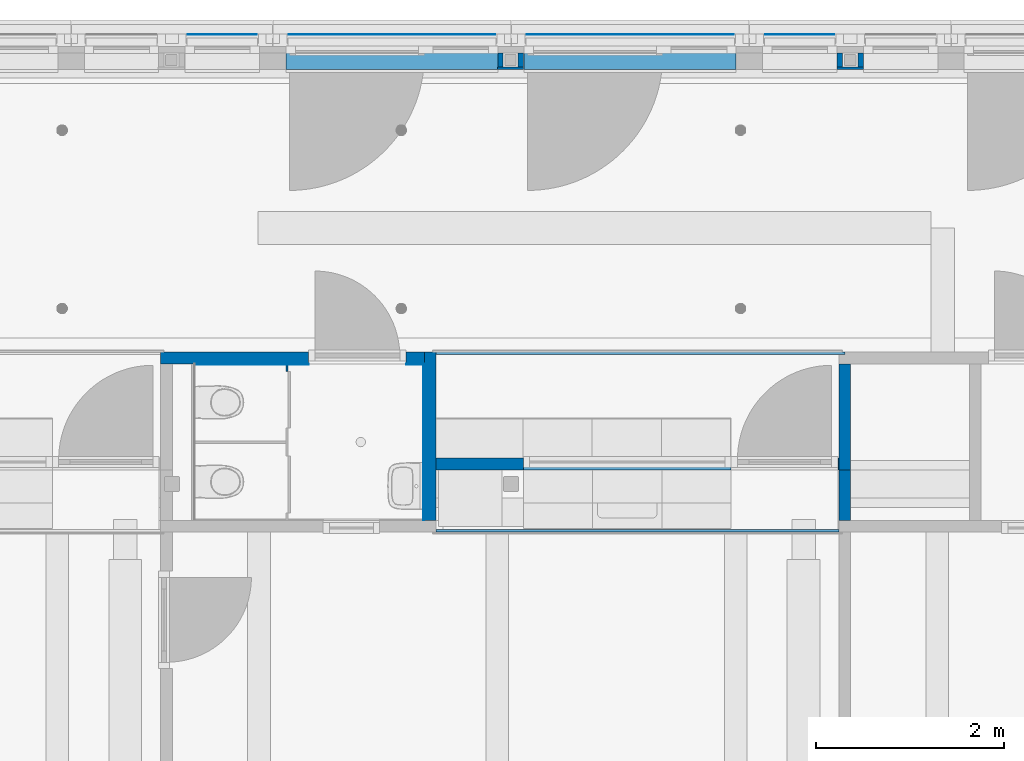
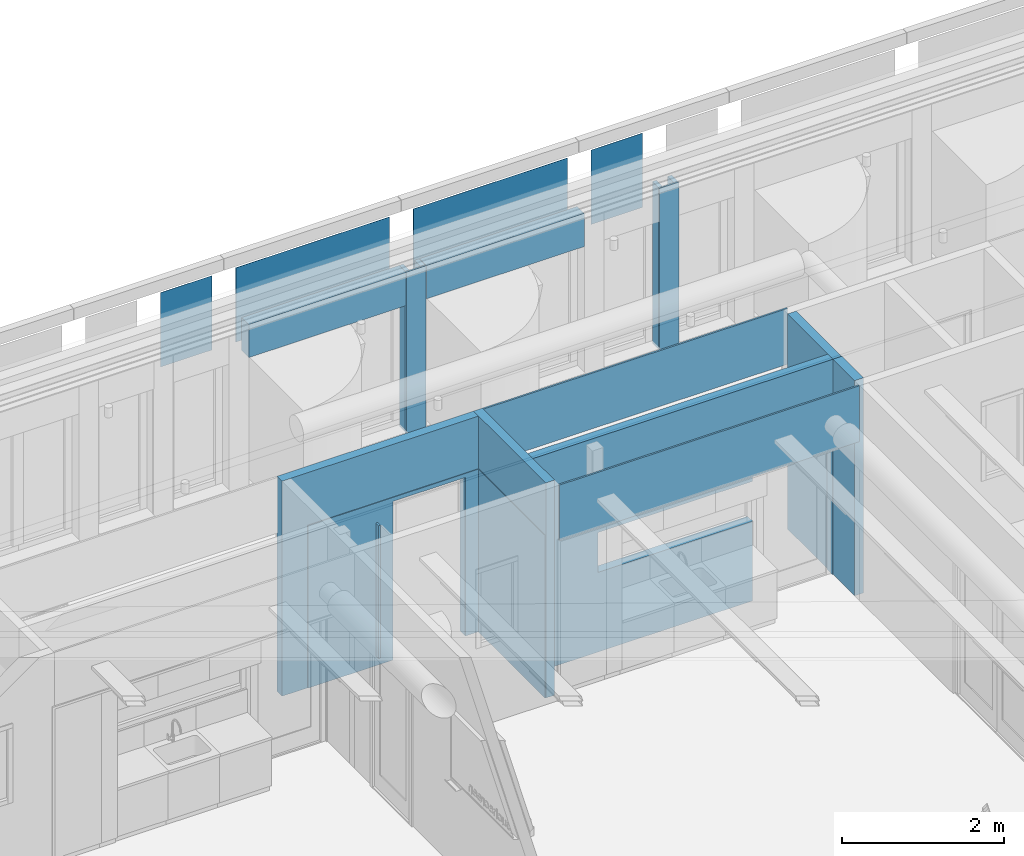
# One storey, part 47 of 128: 22 walls, 5 openings.
"""IFC2X3 building model written with IfcOpenShell, lengths in millimetres."""

from ifc_helpers import new_model, entity, si_unit, converted_unit, derived_unit, direction, frame, frame_2d, origin, origin_2d_with_axis, place, context, subcontext, project, spatial, polyline, rectangle, extrude, clip, bounded_halfspace, material, layer, layer_set, layer_usage, type_object, element, save


model = new_model("IFC2X3")

# Units and contexts
model_context = context("Model", 3, precision=0.01, world=origin(), true_north=direction((6.123031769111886e-17, 1.0)))
body_context = subcontext(model_context, "Body", "Model", "MODEL_VIEW")
ifc_project = project(units=[si_unit("LENGTHUNIT", "METRE", prefix="MILLI"), si_unit("AREAUNIT", "SQUARE_METRE"), si_unit("VOLUMEUNIT", "CUBIC_METRE"), converted_unit("PLANEANGLEUNIT", "DEGREE", entity("IfcRatioMeasure", 0.017453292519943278), si_unit("PLANEANGLEUNIT", "RADIAN"), dimensions=[0, 0, 0, 0, 0, 0, 0]), si_unit("MASSUNIT", "GRAM", prefix="KILO"), derived_unit("MASSDENSITYUNIT", [(si_unit("MASSUNIT", "GRAM", prefix="KILO"), 1), (si_unit("LENGTHUNIT", "METRE"), -3)]), derived_unit("IONCONCENTRATIONUNIT", [(si_unit("MASSUNIT", "GRAM", prefix="KILO"), 1), (si_unit("LENGTHUNIT", "METRE"), -3)]), derived_unit("MOMENTOFINERTIAUNIT", [(si_unit("LENGTHUNIT", "METRE"), 4)]), si_unit("TIMEUNIT", "SECOND"), si_unit("FREQUENCYUNIT", "HERTZ"), si_unit("THERMODYNAMICTEMPERATUREUNIT", "DEGREE_CELSIUS"), derived_unit("THERMALTRANSMITTANCEUNIT", [(si_unit("MASSUNIT", "GRAM", prefix="KILO"), 1), (si_unit("THERMODYNAMICTEMPERATUREUNIT", "KELVIN"), -1), (si_unit("TIMEUNIT", "SECOND"), -3)]), derived_unit("THERMALCONDUCTANCEUNIT", [(si_unit("MASSUNIT", "GRAM", prefix="KILO"), 1), (si_unit("THERMODYNAMICTEMPERATUREUNIT", "KELVIN"), -1), (si_unit("TIMEUNIT", "SECOND"), -3), (si_unit("LENGTHUNIT", "METRE"), 1)]), derived_unit("VOLUMETRICFLOWRATEUNIT", [(si_unit("LENGTHUNIT", "METRE"), 3), (si_unit("TIMEUNIT", "SECOND"), -1)]), derived_unit("MASSFLOWRATEUNIT", [(si_unit("MASSUNIT", "GRAM", prefix="KILO"), 1), (si_unit("TIMEUNIT", "SECOND"), -1)]), derived_unit("ROTATIONALFREQUENCYUNIT", [(si_unit("TIMEUNIT", "SECOND"), -1)]), si_unit("ELECTRICCURRENTUNIT", "AMPERE"), si_unit("ELECTRICVOLTAGEUNIT", "VOLT"), si_unit("POWERUNIT", "WATT"), si_unit("FORCEUNIT", "NEWTON", prefix="KILO"), si_unit("ILLUMINANCEUNIT", "LUX"), si_unit("LUMINOUSFLUXUNIT", "LUMEN"), si_unit("LUMINOUSINTENSITYUNIT", "CANDELA"), derived_unit("USERDEFINED", [(si_unit("MASSUNIT", "GRAM", prefix="KILO"), -1), (si_unit("LENGTHUNIT", "METRE"), -2), (si_unit("TIMEUNIT", "SECOND"), 3), (si_unit("LUMINOUSFLUXUNIT", "LUMEN"), 1)]), derived_unit("USERDEFINED", [(si_unit("MASSUNIT", "GRAM", prefix="KILO"), 1), (si_unit("TIMEUNIT", "SECOND"), -3), (si_unit("LENGTHUNIT", "METRE"), 3), (si_unit("ELECTRICCURRENTUNIT", "AMPERE"), -2)]), derived_unit("SOUNDPOWERUNIT", [(si_unit("MASSUNIT", "GRAM", prefix="KILO"), 1), (si_unit("TIMEUNIT", "SECOND"), -3), (si_unit("LENGTHUNIT", "METRE"), 2)]), derived_unit("SOUNDPRESSUREUNIT", [(si_unit("MASSUNIT", "GRAM", prefix="KILO"), 1), (si_unit("LENGTHUNIT", "METRE"), -1), (si_unit("TIMEUNIT", "SECOND"), -2)]), derived_unit("LINEARVELOCITYUNIT", [(si_unit("LENGTHUNIT", "METRE"), 1), (si_unit("TIMEUNIT", "SECOND"), -1)]), si_unit("PRESSUREUNIT", "PASCAL"), derived_unit("USERDEFINED", [(si_unit("MASSUNIT", "GRAM", prefix="KILO"), 1), (si_unit("LENGTHUNIT", "METRE"), -2), (si_unit("TIMEUNIT", "SECOND"), -2)]), derived_unit("LINEARFORCEUNIT", [(si_unit("MASSUNIT", "GRAM", prefix="KILO"), 1), (si_unit("TIMEUNIT", "SECOND"), -2)]), derived_unit("PLANARFORCEUNIT", [(si_unit("MASSUNIT", "GRAM", prefix="KILO"), 1), (si_unit("LENGTHUNIT", "METRE"), -1), (si_unit("TIMEUNIT", "SECOND"), -2)]), derived_unit("SPECIFICHEATCAPACITYUNIT", [(si_unit("THERMODYNAMICTEMPERATUREUNIT", "KELVIN"), -1), (si_unit("LENGTHUNIT", "METRE"), 2), (si_unit("TIMEUNIT", "SECOND"), -2)]), derived_unit("HEATINGVALUEUNIT", [(si_unit("LENGTHUNIT", "METRE"), 2), (si_unit("TIMEUNIT", "SECOND"), -2)]), derived_unit("VAPORPERMEABILITYUNIT", [(si_unit("LENGTHUNIT", "METRE"), -1), (si_unit("TIMEUNIT", "SECOND"), 1)]), derived_unit("DYNAMICVISCOSITYUNIT", [(si_unit("MASSUNIT", "GRAM", prefix="KILO"), 1), (si_unit("TIMEUNIT", "SECOND"), -1), (si_unit("LENGTHUNIT", "METRE"), -1)]), derived_unit("THERMALEXPANSIONCOEFFICIENTUNIT", [(si_unit("THERMODYNAMICTEMPERATUREUNIT", "KELVIN"), -1)]), derived_unit("MODULUSOFELASTICITYUNIT", [(si_unit("MASSUNIT", "GRAM", prefix="KILO"), 1), (si_unit("LENGTHUNIT", "METRE"), -1), (si_unit("TIMEUNIT", "SECOND"), -2)]), derived_unit("ISOTHERMALMOISTURECAPACITYUNIT", [(si_unit("LENGTHUNIT", "METRE"), 3), (si_unit("MASSUNIT", "GRAM", prefix="KILO"), -1)]), derived_unit("MOISTUREDIFFUSIVITYUNIT", [(si_unit("TIMEUNIT", "SECOND"), -1), (si_unit("LENGTHUNIT", "METRE"), 2)])], contexts=[model_context])

# Site, building, storey
site_placement = place(None, frame((0.0, 300.0, 0.0)))
site = spatial("IfcSite", under=ifc_project, at=site_placement, Name="<Kadastrale nummers>", CompositionType="ELEMENT")
building_placement = place(site_placement, origin())
building = spatial("IfcBuilding", under=site, at=building_placement, CompositionType="ELEMENT")
storey_placement = place(building_placement, frame((0.0, 0.0, 3560.0000331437)))
storey = spatial("IfcBuildingStorey", under=building, at=storey_placement, Name="01 eerste verdieping", CompositionType="ELEMENT", Elevation=3560.0000331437)

# Wall, opening
ifc_material_1 = material(Name="ISR_Gips")
ifc_layer_1 = layer(ifc_material_1, 1.0)
ifc_material_2 = material(Name="ISR_Binnenwand")
ifc_layer_2 = layer(ifc_material_2, 123.0)
ifc_layer_3 = layer(ifc_material_1, 1.0)
ifc_layer_set_1 = layer_set([ifc_layer_1, ifc_layer_2, ifc_layer_3], Name="Basic Wall:22_DAT_binnenwand_125")
ifc_layer_usage_1 = layer_usage(ifc_layer_set_1, "AXIS2", "POSITIVE", -62.50000000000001)
wall_type_1 = type_object("IfcWallType", Name="Basic Wall:22_DAT_binnenwand_125", PredefinedType="STANDARD", material=ifc_layer_set_1)
wall_1_placement = place(storey_placement, frame((10080.0, 46637.49999999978, 90.00000187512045)))
wall_1 = element("IfcWallStandardCase", 1, at=wall_1_placement, inside=storey, type_object=wall_type_1, material=ifc_layer_usage_1, Name="Basic Wall:22_DAT_binnenwand_125", ObjectType="Basic Wall:22_DAT_binnenwand_125", context=body_context, shape_type="SweptSolid", body=[
    extrude(rectangle(XDim=2799.9999999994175, YDim=125.00000000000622, at=frame_2d((1399.9999999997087, -3.197442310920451e-14), x_axis=(-1.0, 0.0))), origin(), (0.0, 0.0, 1.0), 3240.0000290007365),
])
opening_1_placement = place(wall_1_placement, origin())
element("IfcOpeningElement", 2, at=opening_1_placement, cuts=wall_1, Name="Basic Wall:22_DAT_binnenwand_125", ObjectType="Opening", context=body_context, shape_type="SweptSolid", body=[
    extrude(rectangle(XDim=2390.0000000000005, YDim=1034.000000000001, at=frame_2d((-1.0800249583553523e-12, 0.0), x_axis=(0.0, 1.0))), frame((2089.0013767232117, -214.89999999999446, 1195.0), z_axis=(0.0, 1.0, 0.0), x_axis=(-1.0, 0.0, 0.0)), (0.0, 0.0, 1.0), 429.79999999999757),
])

# Walls
ifc_layer_4 = layer(ifc_material_2, 113.0)
ifc_material_3 = material(Name="ISR_HPL Kleur hout")
ifc_layer_5 = layer(ifc_material_3, 12.0)
ifc_layer_set_2 = layer_set([ifc_layer_4, ifc_layer_5], Name="Basic Wall:22_DAT_binnenwand_125 HPL")
ifc_layer_usage_2 = layer_usage(ifc_layer_set_2, "AXIS2", "POSITIVE", -62.49999999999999)
wall_type_2 = type_object("IfcWallType", Name="Basic Wall:22_DAT_binnenwand_125 HPL", PredefinedType="STANDARD", material=ifc_layer_set_2)
wall_2_placement = place(storey_placement, frame((17342.50000000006, 44915.0, 90.00000187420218), z_axis=(0.0, 0.0, 1.0), x_axis=(0.0, 1.0, 0.0)))
element("IfcWallStandardCase", 3, at=wall_2_placement, inside=storey, type_object=wall_type_2, material=ifc_layer_usage_2, Name="Basic Wall:22_DAT_binnenwand_125 HPL", ObjectType="Basic Wall:22_DAT_binnenwand_125 HPL", context=body_context, shape_type="SweptSolid", body=[
    extrude(rectangle(XDim=534.9999999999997, YDim=125.0000000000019, at=frame_2d((267.49999999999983, -4.583000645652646e-13), x_axis=(-1.0, 0.0))), origin(), (0.0, 0.0, 1.0), 3240.0000290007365),
])
ifc_layer_usage_3 = layer_usage(ifc_layer_set_2, "AXIS2", "NEGATIVE", 62.49999999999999)
wall_3_placement = place(storey_placement, frame((12942.500000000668, 44915.0, 90.00000187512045), z_axis=(0.0, 0.0, 1.0), x_axis=(0.0, 1.0, 0.0)))
element("IfcWallStandardCase", 4, at=wall_3_placement, inside=storey, type_object=wall_type_2, material=ifc_layer_usage_3, Name="Basic Wall:22_DAT_binnenwand_125 HPL", ObjectType="Basic Wall:22_DAT_binnenwand_125 HPL", context=body_context, shape_type="SweptSolid", body=[
    extrude(rectangle(XDim=1784.9999999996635, YDim=125.0000000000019, at=frame_2d((892.4999999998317, -5.293543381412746e-13), x_axis=(-1.0, 0.0))), origin(), (0.0, 0.0, 1.0), 3240.0000290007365),
])
wall_4_placement = place(storey_placement, frame((17342.500000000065, 45450.0, 90.00000187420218), z_axis=(0.0, 0.0, 1.0), x_axis=(0.0, 1.0, 0.0)))
element("IfcWallStandardCase", 5, at=wall_4_placement, inside=storey, type_object=wall_type_2, material=ifc_layer_usage_2, Name="Basic Wall:22_DAT_binnenwand_125 HPL", ObjectType="Basic Wall:22_DAT_binnenwand_125 HPL", context=body_context, shape_type="SweptSolid", body=[
    extrude(rectangle(XDim=1124.9999999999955, YDim=125.0000000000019, at=frame_2d((562.4999999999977, 4.583000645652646e-13), x_axis=(-1.0, 0.0))), origin(), (0.0, 0.0, 1.0), 3240.0000290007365),
])

# Wall, openings
ifc_layer_6 = layer(ifc_material_3, 12.0)
ifc_layer_7 = layer(ifc_material_2, 101.0)
ifc_layer_8 = layer(ifc_material_3, 12.0)
ifc_layer_set_3 = layer_set([ifc_layer_6, ifc_layer_7, ifc_layer_8], Name="Basic Wall:22_DAT_binnenwand_125 HPL dubbel")
ifc_layer_usage_4 = layer_usage(ifc_layer_set_3, "AXIS2", "POSITIVE", -62.50000000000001)
wall_type_3 = type_object("IfcWallType", Name="Basic Wall:22_DAT_binnenwand_125 HPL dubbel", PredefinedType="STANDARD", material=ifc_layer_set_3)
wall_5_placement = place(storey_placement, frame((13005.0, 45512.500000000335, 90.00000187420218)))
wall_5 = element("IfcWallStandardCase", 6, at=wall_5_placement, inside=storey, type_object=wall_type_3, material=ifc_layer_usage_4, Name="Basic Wall:22_DAT_binnenwand_125 HPL dubbel", ObjectType="Basic Wall:22_DAT_binnenwand_125 HPL dubbel", context=body_context, shape_type="SweptSolid", body=[
    extrude(rectangle(XDim=4274.9999999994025, YDim=125.00000000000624, at=frame_2d((2137.4999999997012, -2.6147972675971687e-12), x_axis=(-1.0, 0.0))), origin(), (0.0, 0.0, 1.0), 3239.9999999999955),
])
opening_2_placement = place(wall_5_placement, origin())
element("IfcOpeningElement", 7, at=opening_2_placement, cuts=wall_5, Name="Basic Wall:22_DAT_binnenwand_125 HPL dubbel", ObjectType="Opening", context=body_context, shape_type="SweptSolid", body=[
    extrude(rectangle(XDim=2390.0000000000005, YDim=1133.9999999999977, at=origin_2d_with_axis()), frame((3698.0, -214.89999999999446, 1195.0), z_axis=(0.0, 1.0, 0.0), x_axis=(0.0, 0.0, 1.0)), (0.0, 0.0, 1.0), 429.79999999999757),
])
opening_3_placement = place(wall_5_placement, origin())
element("IfcOpeningElement", 8, at=opening_3_placement, cuts=wall_5, Name="Basic Wall:22_DAT_binnenwand_125 HPL dubbel", ObjectType="Opening", context=body_context, shape_type="SweptSolid", body=[
    extrude(rectangle(XDim=600.0000000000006, YDim=2205.0000000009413, at=frame_2d((-2.8421709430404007e-13, -2.1600499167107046e-12), x_axis=(1.0, 0.0))), frame((2028.49999999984, -214.90000000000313, 1500.0), z_axis=(0.0, 1.0, 0.0), x_axis=(0.0, 0.0, 1.0)), (0.0, 0.0, 1.0), 429.79999999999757),
])

# Walls
ifc_layer_9 = layer(ifc_material_1, 1.0)
ifc_layer_10 = layer(ifc_material_2, 23.0)
ifc_layer_11 = layer(ifc_material_1, 1.0)
ifc_layer_set_4 = layer_set([ifc_layer_9, ifc_layer_10, ifc_layer_11], Name="Basic Wall:22_DAT_binnenwand_25")
ifc_layer_usage_5 = layer_usage(ifc_layer_set_4, "AXIS2", "NEGATIVE", 12.499999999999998)
wall_type_4 = type_object("IfcWallType", Name="Basic Wall:22_DAT_binnenwand_25", PredefinedType="STANDARD", material=ifc_layer_set_4)
wall_6_placement = place(storey_placement, frame((13005.0, 46687.49999999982, 2490.000024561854)))
element("IfcWallStandardCase", 9, at=wall_6_placement, inside=storey, type_object=wall_type_4, material=ifc_layer_usage_5, Name="Basic Wall:22_DAT_binnenwand_25", ObjectType="Basic Wall:22_DAT_binnenwand_25", context=body_context, shape_type="SweptSolid", body=[
    extrude(rectangle(XDim=4337.499999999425, YDim=24.999999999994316, at=frame_2d((2168.7499999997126, 0.0), x_axis=(-1.0, 0.0))), origin(), (0.0, 0.0, 1.0), 839.9999773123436),
])
ifc_layer_usage_6 = layer_usage(ifc_layer_set_4, "AXIS2", "POSITIVE", -12.499999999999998)
wall_7_placement = place(storey_placement, frame((13005.0, 44802.50000000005, 2490.000024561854)))
element("IfcWallStandardCase", 10, at=wall_7_placement, inside=storey, type_object=wall_type_4, material=ifc_layer_usage_6, Name="Basic Wall:22_DAT_binnenwand_25", ObjectType="Basic Wall:22_DAT_binnenwand_25", context=body_context, shape_type="SweptSolid", body=[
    extrude(rectangle(XDim=4274.999999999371, YDim=24.999999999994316, at=frame_2d((2137.4999999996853, 6.306066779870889e-14), x_axis=(-1.0, 0.0))), origin(), (0.0, 0.0, 1.0), 839.9999773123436),
])
for number, where, z_axis, x_axis, name in (
    (11, (17540.0, 49712.4999999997, 90.00000187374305), (0.0, 0.0, 1.0), (-1.0, 0.0, 0.0), "Basic Wall:22_DAT_binnenwand_25"),
    (12, (13933.747222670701, 49712.49999999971, 90.00000187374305), (0.0, 0.0, 1.0), (-1.0, 0.0, 0.0), "Basic Wall:22_DAT_binnenwand_25"),
):
    element("IfcWallStandardCase", number, at=place(storey_placement, frame(where, z_axis=z_axis, x_axis=x_axis)), inside=storey, type_object=wall_type_4, material=ifc_layer_usage_6, Name=name, ObjectType="Basic Wall:22_DAT_binnenwand_25", context=body_context, shape_type="SweptSolid", body=[
        extrude(rectangle(XDim=279.99999999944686, YDim=24.999999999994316, at=frame_2d((139.99999999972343, 0.0), x_axis=(-1.0, 0.0))), origin(), (0.0, 0.0, 1.0), 3240.000000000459),
    ])
ifc_material_4 = material(Name="ISR_Kunststof_grijs")
ifc_layer_12 = layer(ifc_material_4, 25.0)
ifc_layer_set_5 = layer_set([ifc_layer_12], Name="Basic Wall:43_DAT_sanitairewand")
ifc_layer_usage_7 = layer_usage(ifc_layer_set_5, "AXIS2", "POSITIVE", -12.500000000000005)
wall_type_5 = type_object("IfcWallType", Name="Basic Wall:43_DAT_sanitairewand", PredefinedType="STANDARD", material=ifc_layer_set_5)
wall_8_placement = place(storey_placement, frame((11422.499999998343, 46575.0, 240.00000187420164), z_axis=(0.0, 0.0, 1.0), x_axis=(0.0, -1.0, 0.0)))
element("IfcWallStandardCase", 13, at=wall_8_placement, inside=storey, type_object=wall_type_5, material=ifc_layer_usage_7, Name="Basic Wall:43_DAT_sanitairewand", ObjectType="Basic Wall:43_DAT_sanitairewand", context=body_context, shape_type="SweptSolid", body=[
    extrude(rectangle(XDim=79.99999999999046, YDim=24.99999999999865, at=frame_2d((39.99999999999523, -6.972200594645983e-13), x_axis=(-1.0, 0.0))), origin(), (0.0, 0.0, 1.0), 2000.0000000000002),
])
ifc_material_5 = material(Name="STAAL_RAL 7006")
ifc_layer_13 = layer(ifc_material_5, 2.0)
ifc_layer_set_6 = layer_set([ifc_layer_13], Name="Basic Wall:21_DAT_zetwerk_2")
ifc_layer_usage_8 = layer_usage(ifc_layer_set_6, "AXIS2", "NEGATIVE", 1.000000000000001)
wall_type_6 = type_object("IfcWallType", Name="Basic Wall:21_DAT_zetwerk_2", PredefinedType="STANDARD", material=ifc_layer_set_6)
for number, where, name in (
    (14, (13968.0, 50071.0, 2829.9999668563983), "Basic Wall:21_DAT_zetwerk_2"),
    (15, (11438.0, 50071.0, 2829.9999668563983), "Basic Wall:21_DAT_zetwerk_2"),
):
    element("IfcWallStandardCase", number, at=place(storey_placement, frame(where)), inside=storey, type_object=wall_type_6, material=ifc_layer_usage_8, Name=name, ObjectType="Basic Wall:21_DAT_zetwerk_2", context=body_context, shape_type="SweptSolid", body=[
        extrude(rectangle(XDim=2194.0000000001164, YDim=1.9999999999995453, at=frame_2d((1097.0000000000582, 1.4378498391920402e-12), x_axis=(-1.0, 0.0))), origin(), (0.0, 0.0, 1.0), 1120.0000000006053),
    ])
for number, where, name in (
    (16, (16498.0, 50071.0, 2829.9999668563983), "Basic Wall:21_DAT_zetwerk_2"),
    (17, (10368.0, 50071.0, 2829.9999668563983), "Basic Wall:21_DAT_zetwerk_2"),
):
    element("IfcWallStandardCase", number, at=place(storey_placement, frame(where)), inside=storey, type_object=wall_type_6, material=ifc_layer_usage_8, Name=name, ObjectType="Basic Wall:21_DAT_zetwerk_2", context=body_context, shape_type="SweptSolid", body=[
        extrude(rectangle(XDim=733.9999999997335, YDim=1.9999999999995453, at=frame_2d((366.99999999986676, 0.0), x_axis=(-1.0, 0.0))), origin(), (0.0, 0.0, 1.0), 1120.0000000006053),
    ])
ifc_layer_14 = layer(ifc_material_1, 12.5)
ifc_layer_15 = layer(ifc_material_1, 12.5)
ifc_material_6 = material(Name="ISR_Dak_isolatie(198)")
ifc_layer_16 = layer(ifc_material_6, 140.0)
ifc_material_7 = material(Name="ISR_Multiplex")
ifc_layer_17 = layer(ifc_material_7, 10.0)
ifc_layer_set_7 = layer_set([ifc_layer_14, ifc_layer_15, ifc_layer_16, ifc_layer_17], Name="Basic Wall:21_DAT_Hekwerk 175")
ifc_layer_usage_9 = layer_usage(ifc_layer_set_7, "AXIS2", "POSITIVE", -87.5)
wall_type_7 = type_object("IfcWallType", Name="Basic Wall:21_DAT_Hekwerk 175", PredefinedType="STANDARD", material=ifc_layer_set_7)
wall_9_placement = place(storey_placement, frame((13940.0, 49787.50000000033, 2830.0)))
element("IfcWallStandardCase", 18, at=wall_9_placement, inside=storey, type_object=wall_type_7, material=ifc_layer_usage_9, Name="Basic Wall:21_DAT_Hekwerk 175", ObjectType="Basic Wall:21_DAT_Hekwerk 175", context=body_context, shape_type="SweptSolid", body=[
    extrude(rectangle(XDim=2249.999999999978, YDim=174.99999999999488, at=frame_2d((1124.9999999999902, 1.5702994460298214e-12), x_axis=(-1.0, 0.0))), origin(), (0.0, 0.0, 1.0), 500.00003087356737),
])
wall_10_placement = place(storey_placement, frame((11410.0, 49787.500000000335, 2830.0)))
element("IfcWallStandardCase", 19, at=wall_10_placement, inside=storey, type_object=wall_type_7, material=ifc_layer_usage_9, Name="Basic Wall:21_DAT_Hekwerk 175", ObjectType="Basic Wall:21_DAT_Hekwerk 175", context=body_context, shape_type="Clipping", body=[
    clip(clip(extrude(rectangle(XDim=2249.999999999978, YDim=174.99999999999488, at=frame_2d((1124.9999999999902, 1.5702994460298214e-12), x_axis=(-1.0, 0.0))), origin(), (0.0, 0.0, 1.0), 500.00003087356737), bounded_halfspace(frame((2243.747222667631, -62.500000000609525, 500.00003087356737), z_axis=(0.0, 1.0, 0.0), x_axis=(-1.0, 0.0, 0.0)), True, frame((2243.747222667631, -62.500000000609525, 500.00003087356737), z_axis=(0.0, 1.0, 0.0), x_axis=(-1.0, 0.0, 0.0)), polyline([(0.0, 0.0), (-6.252777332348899, 0.0), (-6.252777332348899, -500.00003087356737), (0.0, -500.00003087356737), (0.0, 0.0)]))), bounded_halfspace(frame((2243.747222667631, -62.500000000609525, 0.0), z_axis=(-1.0, 0.0, 0.0), x_axis=(0.0, -1.0, 0.0)), True, frame((2243.747222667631, -62.500000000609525, 0.0), z_axis=(-1.0, 0.0, 0.0), x_axis=(0.0, -1.0, 0.0)), polyline([(0.0, 0.0), (25.0, 0.0), (25.0, 500.00003087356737), (0.0, 500.00003087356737), (0.0, 0.0)]))),
])

# Wall, opening
ifc_material_8 = material(Name="ISR_Tegels_grijs_150x150")
ifc_layer_18 = layer(ifc_material_8, 10.0)
ifc_layer_set_8 = layer_set([ifc_layer_18], Name="Basic Wall:43_DAT_Wandtegelwerk")
ifc_layer_usage_10 = layer_usage(ifc_layer_set_8, "AXIS2", "NEGATIVE", 5.0)
wall_type_8 = type_object("IfcWallType", Name="Basic Wall:43_DAT_Wandtegelwerk", PredefinedType="STANDARD", material=ifc_layer_set_8)
wall_11_placement = place(storey_placement, frame((10445.0, 46570.0, 90.00000187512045)))
wall_11 = element("IfcWallStandardCase", 20, at=wall_11_placement, inside=storey, type_object=wall_type_8, material=ifc_layer_usage_10, Name="Basic Wall:43_DAT_Wandtegelwerk", ObjectType="Basic Wall:43_DAT_Wandtegelwerk", context=body_context, shape_type="SweptSolid", body=[
    extrude(rectangle(XDim=2435.000000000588, YDim=9.999999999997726, at=frame_2d((1217.500000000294, 1.715960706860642e-12), x_axis=(1.0, 0.0))), origin(), (0.0, 0.0, 1.0), 2450.0000226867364),
])
opening_4_placement = place(wall_11_placement, origin())
element("IfcOpeningElement", 21, at=opening_4_placement, cuts=wall_11, Name="Basic Wall:43_DAT_Wandtegelwerk", ObjectType="Opening", context=body_context, shape_type="SweptSolid", body=[
    extrude(rectangle(XDim=2390.0000000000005, YDim=1034.000000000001, at=frame_2d((1.0800249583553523e-12, 0.0), x_axis=(0.0, 1.0))), frame((1724.0013767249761, -157.3999999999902, 1195.0), z_axis=(0.0, 1.0, 0.0), x_axis=(-1.0, 0.0, 0.0)), (0.0, 0.0, 1.0), 314.79999999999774),
])

# Walls
ifc_layer_usage_11 = layer_usage(ifc_layer_set_8, "AXIS2", "POSITIVE", -5.0)
wall_12_placement = place(storey_placement, frame((12875.0, 46565.0, 90.00000187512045), z_axis=(0.0, 0.0, 1.0), x_axis=(0.0, -1.0, 0.0)))
element("IfcWallStandardCase", 22, at=wall_12_placement, inside=storey, type_object=wall_type_8, material=ifc_layer_usage_11, Name="Basic Wall:43_DAT_Wandtegelwerk", ObjectType="Basic Wall:43_DAT_Wandtegelwerk", context=body_context, shape_type="SweptSolid", body=[
    extrude(rectangle(XDim=1649.9999999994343, YDim=10.000000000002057, at=frame_2d((824.9999999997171, -2.34035013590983e-13), x_axis=(-1.0, 0.0))), origin(), (0.0, 0.0, 1.0), 2450.0000226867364),
])
ifc_layer_19 = layer(ifc_material_6, 140.0)
ifc_layer_20 = layer(ifc_material_7, 10.0)
ifc_layer_set_9 = layer_set([ifc_layer_19, ifc_layer_20], Name="Basic Wall:21_DAT_Hekwerk 150")
ifc_layer_usage_12 = layer_usage(ifc_layer_set_9, "AXIS2", "NEGATIVE", 75.0)
wall_type_9 = type_object("IfcWallType", Name="Basic Wall:21_DAT_Hekwerk 150", PredefinedType="STANDARD", material=ifc_layer_set_9)
wall_13_placement = place(storey_placement, frame((17320.0, 49800.0, 900.0000018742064), z_axis=(0.0, 0.0, 1.0), x_axis=(-1.0, 0.0, 0.0)))
element("IfcWallStandardCase", 23, at=wall_13_placement, inside=storey, type_object=wall_type_9, material=ifc_layer_usage_12, Name="Basic Wall:21_DAT_Hekwerk 150", ObjectType="Basic Wall:21_DAT_Hekwerk 150", context=body_context, shape_type="SweptSolid", body=[
    extrude(rectangle(XDim=60.00000000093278, YDim=150.00000000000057, at=frame_2d((30.00000000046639, 5.968558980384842e-13), x_axis=(-1.0, 0.0))), origin(), (0.0, 0.0, 1.0), 2429.9999999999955),
])
ifc_layer_usage_13 = layer_usage(ifc_layer_set_9, "AXIS2", "POSITIVE", -75.0)
wall_14_placement = place(storey_placement, frame((17480.0, 49800.0, 900.0000018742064)))
element("IfcWallStandardCase", 24, at=wall_14_placement, inside=storey, type_object=wall_type_9, material=ifc_layer_usage_13, Name="Basic Wall:21_DAT_Hekwerk 150", ObjectType="Basic Wall:21_DAT_Hekwerk 150", context=body_context, shape_type="SweptSolid", body=[
    extrude(rectangle(XDim=59.99999999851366, YDim=150.00000000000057, at=frame_2d((29.99999999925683, 9.592326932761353e-13), x_axis=(-1.0, 0.0))), origin(), (0.0, 0.0, 1.0), 2429.9999999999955),
])

# Wall, opening
wall_15_placement = place(storey_placement, frame((13713.747222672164, 49800.0, 900.0000018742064), z_axis=(0.0, 0.0, 1.0), x_axis=(-1.0, 0.0, 0.0)))
wall_15 = element("IfcWallStandardCase", 25, at=wall_15_placement, inside=storey, type_object=wall_type_9, material=ifc_layer_usage_12, Name="Basic Wall:21_DAT_Hekwerk 150", ObjectType="Basic Wall:21_DAT_Hekwerk 150", context=body_context, shape_type="SweptSolid", body=[
    extrude(rectangle(XDim=60.00000000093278, YDim=150.00000000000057, at=frame_2d((30.00000000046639, 5.968558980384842e-13), x_axis=(-1.0, 0.0))), origin(), (0.0, 0.0, 1.0), 2429.9999999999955),
])
opening_5_placement = place(wall_15_placement, origin())
element("IfcOpeningElement", 26, at=opening_5_placement, cuts=wall_15, Name="Basic Wall:21_DAT_Hekwerk 150", ObjectType="Opening", context=body_context, shape_type="SweptSolid", body=[
    extrude(rectangle(XDim=1929.9999649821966, YDim=2249.9999999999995, at=frame_2d((-2.8421709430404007e-13, 0.0), x_axis=(1.0, 0.0))), frame((1178.7472226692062, -227.40000000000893, 964.9999824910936), z_axis=(0.0, 1.0, 0.0), x_axis=(0.0, 0.0, 1.0)), (0.0, 0.0, 1.0), 454.8000000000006),
])

# Wall
wall_16_placement = place(storey_placement, frame((13873.747222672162, 49800.0, 900.0000018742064)))
element("IfcWallStandardCase", 27, at=wall_16_placement, inside=storey, type_object=wall_type_9, material=ifc_layer_usage_13, Name="Basic Wall:21_DAT_Hekwerk 150", ObjectType="Basic Wall:21_DAT_Hekwerk 150", context=body_context, shape_type="SweptSolid", body=[
    extrude(rectangle(XDim=59.99999999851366, YDim=150.00000000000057, at=frame_2d((29.99999999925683, 9.592326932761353e-13), x_axis=(-1.0, 0.0))), origin(), (0.0, 0.0, 1.0), 2429.9999999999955),
])

save(model, "model.ifc")
